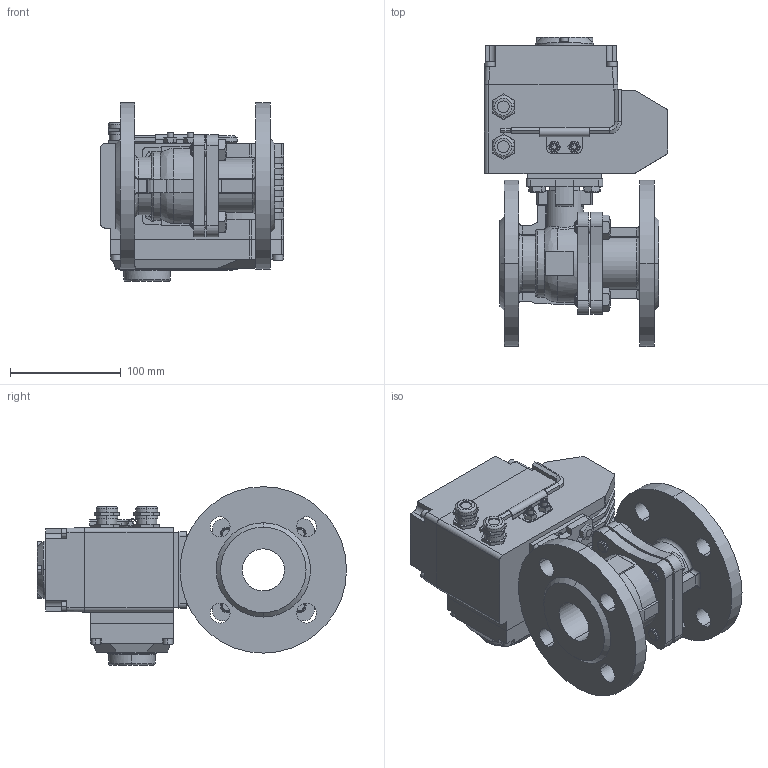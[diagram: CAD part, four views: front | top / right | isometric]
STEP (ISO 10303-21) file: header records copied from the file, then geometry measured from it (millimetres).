
FILE_DESCRIPTION((''),'2;1');
FILE_NAME('BV-22F_EAR_T_ASM','2025-03-03T',('USER'),(''),'PRO/ENGINEER BY PARAMETRIC TECHNOLOGY CORPORATION, 2011220','PRO/ENGINEER BY PARAMETRIC TECHNOLOGY CORPORATION, 2011220','');
FILE_SCHEMA(('CONFIG_CONTROL_DESIGN'));
Length unit declared in the file: millimetre
Products named in the file (15): KORPUS_KRAN_FL; B-7798-M12-25; SB_KRAN_FL_ASM; DET_1; V-11738-M5; V-11738-M4; DET_2; KREPLENIE; KLUCH; DET_3; G-5915-M6; ELECTROPRIVOD_ASM; ELECTROPRIVOD_WITH_DISPLAY_ASM; B-7798-M8-20; BV-22F_EAR_T_ASM
Assembly tree (31 placements, depth 4):
  BV-22F_EAR_T_ASM
    SB_KRAN_FL_ASM
      KORPUS_KRAN_FL
      B-7798-M12-25  x4
    ELECTROPRIVOD_WITH_DISPLAY_ASM
      ELECTROPRIVOD_ASM
        DET_1
        V-11738-M5  x8
        V-11738-M4  x4
        DET_2
        KREPLENIE
        KLUCH
        DET_3
        G-5915-M6  x2
    B-7798-M8-20  x4
Bounding box: 165 x 278.5 x 161 mm (x, y, z)
Volume: 2460818.8 mm3; surface area: 345293.2 mm2
Topology: 28 solids, 66 shells, 1432 faces, 3705 edges, 2419 vertices
Faces by surface type: plane 892, cylinder 402, cone 82, torus 33, bspline 21, extrusion 2
Entity records: 37119 total; most frequent: CARTESIAN_POINT 7994, DIRECTION 6002, ORIENTED_EDGE 5918, EDGE_CURVE 3003, VECTOR 2138, LINE 2136, VERTEX_POINT 1974, AXIS2_PLACEMENT_3D 1932
